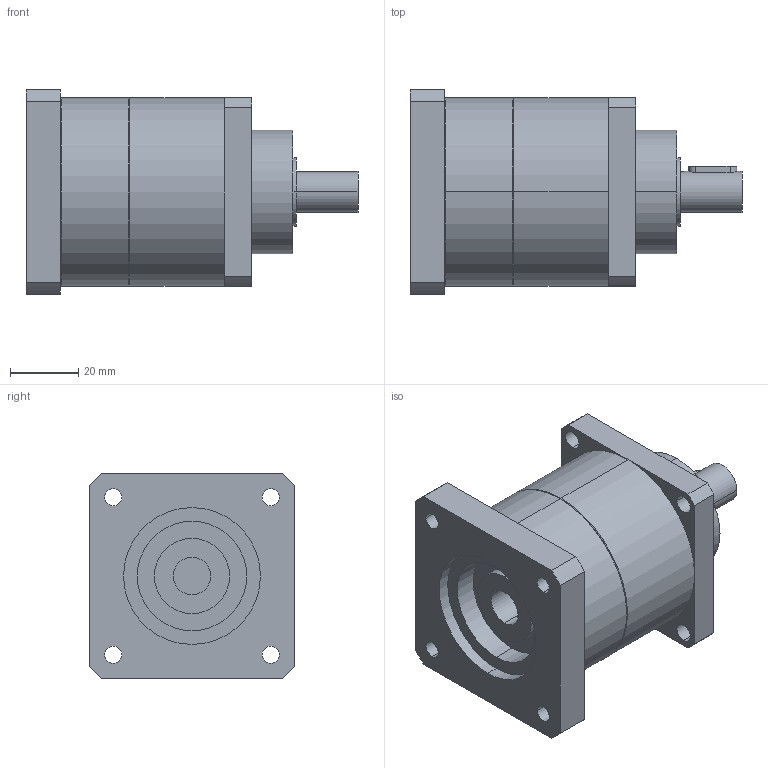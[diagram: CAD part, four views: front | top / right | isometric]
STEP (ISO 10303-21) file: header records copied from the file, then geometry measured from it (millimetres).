
FILE_DESCRIPTION(('CoCreate Modeling STEP Export'),'2;1');
FILE_NAME('GPT55_ig-3-4-5-7-10_12_B5A_11_P32.stp','2014-08-25T14:31:42',(''),(''),'CoCreate Modeling STEP processor for AP214 (Solid Model)','CoCreate Modeling 16.00C 25-Feb-2009 (C) Parametric Technology GmbH','');
FILE_SCHEMA(('AUTOMOTIVE_DESIGN { 1 0 10303 214 1 1 1 1 }'));
Length unit declared in the file: millimetre
Products named in the file (2): GPT55_ig-3-4-5-7-10_12_B5A_11_P32
Assembly tree (1 placements, depth 2):
  GPT55_ig-3-4-5-7-10_12_B5A_11_P32
    GPT55_ig-3-4-5-7-10_12_B5A_11_P32
Bounding box: 97 x 60 x 60 mm (x, y, z)
Volume: 176173.7 mm3; surface area: 26096.6 mm2
Topology: 1 solids, 1 shells, 77 faces, 204 edges, 139 vertices
Faces by surface type: cylinder 46, plane 27, cone 4
Entity records: 2515 total; most frequent: CARTESIAN_POINT 710, ORIENTED_EDGE 408, DIRECTION 318, EDGE_CURVE 204, VERTEX_POINT 139, AXIS2_PLACEMENT_3D 117, EDGE_LOOP 103, VECTOR 84
